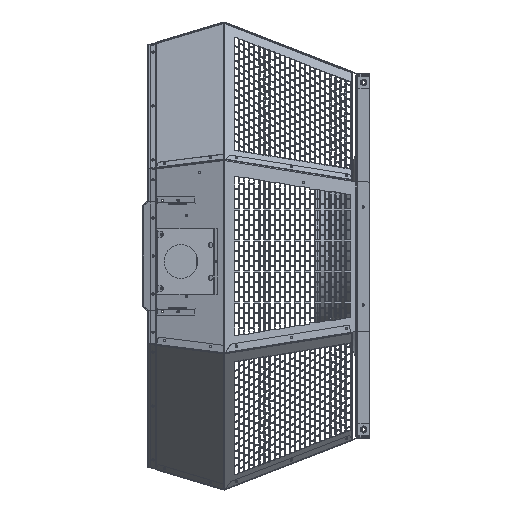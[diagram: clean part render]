
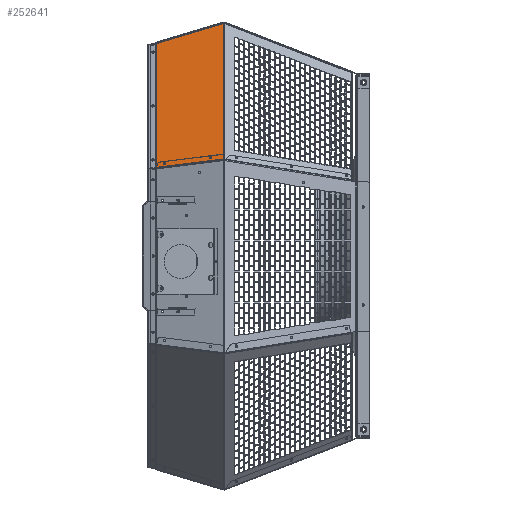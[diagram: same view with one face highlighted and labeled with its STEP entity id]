
A CAD part, left-side view. The second image highlights one B-rep face of the part: STEP entity #252641.
In plain terms, the highlighted planar face has unit normal (-0.677, 0.288, 0.677).
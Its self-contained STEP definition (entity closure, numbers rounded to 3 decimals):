
#66005 = VERTEX_POINT ( 'NONE', #135616 ) ;
#66045 = VERTEX_POINT ( 'NONE', #135712 ) ;
#66057 = VERTEX_POINT ( 'NONE', #135726 ) ;
#115990 = EDGE_CURVE ( 'NONE', #66005, #205321, #207360, .T. ) ;
#116020 = EDGE_CURVE ( 'NONE', #66045, #66005, #207369, .T. ) ;
#116047 = EDGE_CURVE ( 'NONE', #205167, #205464, #207367, .T. ) ;
#116151 = EDGE_CURVE ( 'NONE', #232295, #232300, #207414, .T. ) ;
#116156 = EDGE_CURVE ( 'NONE', #189476, #235807, #207411, .T. ) ;
#116159 = EDGE_CURVE ( 'NONE', #235807, #189476, #207416, .T. ) ;
#116163 = EDGE_CURVE ( 'NONE', #188570, #205464, #207417, .T. ) ;
#116169 = EDGE_CURVE ( 'NONE', #205321, #188570, #207418, .T. ) ;
#116173 = EDGE_CURVE ( 'NONE', #66057, #66045, #207415, .T. ) ;
#116177 = EDGE_CURVE ( 'NONE', #189734, #66057, #207425, .T. ) ;
#116182 = EDGE_CURVE ( 'NONE', #205167, #189734, #207424, .T. ) ;
#133907 = CARTESIAN_POINT ( 'NONE',  ( -165.077, 124.449, 390.653 ) ) ;
#134939 = CARTESIAN_POINT ( 'NONE',  ( -391.524, 107.53, 171.408 ) ) ;
#135399 = CARTESIAN_POINT ( 'NONE',  ( -180.172, 1.106, 428.057 ) ) ;
#135616 = CARTESIAN_POINT ( 'NONE',  ( -392.648, 124.574, 163.029 ) ) ;
#135712 = CARTESIAN_POINT ( 'NONE',  ( -429.816, 1.075, 178.426 ) ) ;
#135726 = CARTESIAN_POINT ( 'NONE',  ( -180.178, 1.075, 428.064 ) ) ;
#138764 = CARTESIAN_POINT ( 'NONE',  ( -180.096, 1.127, 428.124 ) ) ;
#138900 = CARTESIAN_POINT ( 'NONE',  ( -165.062, 124.574, 390.616 ) ) ;
#139000 = CARTESIAN_POINT ( 'NONE',  ( -164.721, 124.449, 391.009 ) ) ;
#148464 = CARTESIAN_POINT ( 'NONE',  ( -416.884, 23.264, 181.914 ) ) ;
#148468 = CARTESIAN_POINT ( 'NONE',  ( -416.028, 27.286, 181.058 ) ) ;
#151000 = CARTESIAN_POINT ( 'NONE',  ( -390.668, 111.551, 170.552 ) ) ;
#153911 = AXIS2_PLACEMENT_3D ( 'NONE', #206745, #206746, #206747 ) ;
#153917 = AXIS2_PLACEMENT_3D ( 'NONE', #206749, #206750, #206751 ) ;
#153921 = AXIS2_PLACEMENT_3D ( 'NONE', #206754, #206755, #206756 ) ;
#176271 = AXIS2_PLACEMENT_3D ( 'NONE', #185292, #185282, #185301 ) ;
#181094 = FACE_BOUND ( 'NONE', #223310, .T. ) ;
#181096 = FACE_OUTER_BOUND ( 'NONE', #223296, .T. ) ;
#181106 = FACE_BOUND ( 'NONE', #223304, .T. ) ;
#185282 = DIRECTION ( 'NONE',  ( 0.677, -0.288, -0.677 ) ) ;
#185292 = CARTESIAN_POINT ( 'NONE',  ( -178.593, 0.288, 429.984 ) ) ;
#185296 = PLANE ( 'NONE',  #176271 ) ;
#185301 = DIRECTION ( 'NONE',  ( 0.204, 0.958, -0.204 ) ) ;
#186497 = ORIENTED_EDGE ( 'NONE', *, *, #116151, .F. ) ;
#186501 = ORIENTED_EDGE ( 'NONE', *, *, #257899, .F. ) ;
#186505 = ORIENTED_EDGE ( 'NONE', *, *, #116156, .F. ) ;
#186509 = ORIENTED_EDGE ( 'NONE', *, *, #116159, .F. ) ;
#186513 = ORIENTED_EDGE ( 'NONE', *, *, #116047, .T. ) ;
#186517 = ORIENTED_EDGE ( 'NONE', *, *, #116163, .F. ) ;
#186521 = ORIENTED_EDGE ( 'NONE', *, *, #116169, .F. ) ;
#186525 = ORIENTED_EDGE ( 'NONE', *, *, #115990, .F. ) ;
#186529 = ORIENTED_EDGE ( 'NONE', *, *, #116020, .F. ) ;
#186533 = ORIENTED_EDGE ( 'NONE', *, *, #116173, .F. ) ;
#186537 = ORIENTED_EDGE ( 'NONE', *, *, #116177, .F. ) ;
#186541 = ORIENTED_EDGE ( 'NONE', *, *, #116182, .F. ) ;
#188570 = VERTEX_POINT ( 'NONE', #133907 ) ;
#189476 = VERTEX_POINT ( 'NONE', #134939 ) ;
#189734 = VERTEX_POINT ( 'NONE', #135399 ) ;
#191815 = AXIS2_PLACEMENT_3D ( 'NONE', #225228, #225230, #225232 ) ;
#205167 = VERTEX_POINT ( 'NONE', #138764 ) ;
#205321 = VERTEX_POINT ( 'NONE', #138900 ) ;
#205464 = VERTEX_POINT ( 'NONE', #139000 ) ;
#206615 = CARTESIAN_POINT ( 'NONE',  ( -152.143, 124.574, 403.534 ) ) ;
#206622 = DIRECTION ( 'NONE',  ( 0.707, 0., 0.707 ) ) ;
#206644 = CARTESIAN_POINT ( 'NONE',  ( -392.588, 124.772, 163.005 ) ) ;
#206646 = DIRECTION ( 'NONE',  ( 0.286, 0.951, -0.119 ) ) ;
#206667 = CARTESIAN_POINT ( 'NONE',  ( -180.136, 0.808, 428.22 ) ) ;
#206668 = DIRECTION ( 'NONE',  ( 0.119, 0.951, -0.286 ) ) ;
#206732 = DIRECTION ( 'NONE',  ( -0.707, 0., -0.707 ) ) ;
#206745 = CARTESIAN_POINT ( 'NONE',  ( -416.456, 25.275, 181.486 ) ) ;
#206746 = DIRECTION ( 'NONE',  ( -0.677, 0.288, 0.677 ) ) ;
#206747 = DIRECTION ( 'NONE',  ( -0.204, -0.958, 0.204 ) ) ;
#206749 = CARTESIAN_POINT ( 'NONE',  ( -391.096, 109.541, 170.98 ) ) ;
#206750 = DIRECTION ( 'NONE',  ( -0.677, 0.288, 0.677 ) ) ;
#206751 = DIRECTION ( 'NONE',  ( -0.204, -0.958, 0.204 ) ) ;
#206752 = DIRECTION ( 'NONE',  ( 0.707, 0., 0.707 ) ) ;
#206753 = CARTESIAN_POINT ( 'NONE',  ( -165.077, 124.449, 390.653 ) ) ;
#206754 = CARTESIAN_POINT ( 'NONE',  ( -391.096, 109.541, 170.98 ) ) ;
#206755 = DIRECTION ( 'NONE',  ( -0.677, 0.288, 0.677 ) ) ;
#206756 = DIRECTION ( 'NONE',  ( -0.204, -0.958, 0.204 ) ) ;
#206757 = CARTESIAN_POINT ( 'NONE',  ( -180.595, -0.025, 428.115 ) ) ;
#206758 = CARTESIAN_POINT ( 'NONE',  ( -180.559, -0.713, 428.444 ) ) ;
#206759 = DIRECTION ( 'NONE',  ( -0.119, -0.951, 0.286 ) ) ;
#206760 = CARTESIAN_POINT ( 'NONE',  ( -178.426, 1.075, 429.816 ) ) ;
#206761 = DIRECTION ( 'NONE',  ( -0.734, -0.196, -0.65 ) ) ;
#206764 = DIRECTION ( 'NONE',  ( -0.204, -0.958, 0.204 ) ) ;
#206765 = CARTESIAN_POINT ( 'NONE',  ( -168.492, 4.225, 438.41 ) ) ;
#207360 = LINE ( 'NONE', #206615, #207366 ) ;
#207366 = VECTOR ( 'NONE', #206622, 1000. ) ;
#207367 = LINE ( 'NONE', #206667, #207379 ) ;
#207369 = LINE ( 'NONE', #206644, #207372 ) ;
#207372 = VECTOR ( 'NONE', #206646, 1000. ) ;
#207379 = VECTOR ( 'NONE', #206668, 1000. ) ;
#207411 = CIRCLE ( 'NONE', #153917, 2.1 ) ;
#207414 = CIRCLE ( 'NONE', #153911, 2.1 ) ;
#207415 = LINE ( 'NONE', #206760, #207421 ) ;
#207416 = CIRCLE ( 'NONE', #153921, 2.1 ) ;
#207417 = LINE ( 'NONE', #206753, #207419 ) ;
#207418 = LINE ( 'NONE', #206757, #207422 ) ;
#207419 = VECTOR ( 'NONE', #206752, 1000. ) ;
#207421 = VECTOR ( 'NONE', #206732, 1000. ) ;
#207422 = VECTOR ( 'NONE', #206759, 1000. ) ;
#207423 = VECTOR ( 'NONE', #206761, 1000. ) ;
#207424 = LINE ( 'NONE', #206765, #207423 ) ;
#207425 = LINE ( 'NONE', #206758, #207426 ) ;
#207426 = VECTOR ( 'NONE', #206764, 1000. ) ;
#218256 = CIRCLE ( 'NONE', #191815, 2.1 ) ;
#223296 = EDGE_LOOP ( 'NONE', ( #186513, #186517, #186521, #186525, #186529, #186533, #186537, #186541 ) ) ;
#223304 = EDGE_LOOP ( 'NONE', ( #186505, #186509 ) ) ;
#223310 = EDGE_LOOP ( 'NONE', ( #186497, #186501 ) ) ;
#225228 = CARTESIAN_POINT ( 'NONE',  ( -416.456, 25.275, 181.486 ) ) ;
#225230 = DIRECTION ( 'NONE',  ( -0.677, 0.288, 0.677 ) ) ;
#225232 = DIRECTION ( 'NONE',  ( -0.204, -0.958, 0.204 ) ) ;
#232295 = VERTEX_POINT ( 'NONE', #148464 ) ;
#232300 = VERTEX_POINT ( 'NONE', #148468 ) ;
#235807 = VERTEX_POINT ( 'NONE', #151000 ) ;
#252641 = ADVANCED_FACE ( 'NONE', ( #181094, #181106, #181096 ), #185296, .F. ) ;
#257899 = EDGE_CURVE ( 'NONE', #232300, #232295, #218256, .T. ) ;
